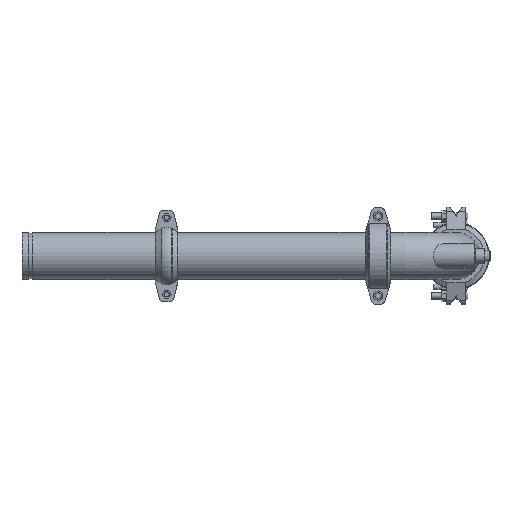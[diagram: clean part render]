
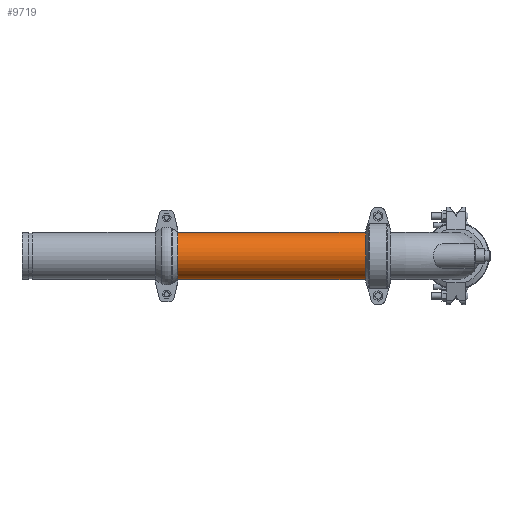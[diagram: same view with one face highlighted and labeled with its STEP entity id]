
A CAD part, left-side view. The second image highlights one B-rep face of the part: STEP entity #9719.
In plain terms, the highlighted cylindrical face has radius 57.15 mm (diameter 114.3 mm), a full revolution.
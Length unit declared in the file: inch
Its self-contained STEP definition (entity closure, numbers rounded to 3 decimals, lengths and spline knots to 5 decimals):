
#415=CYLINDRICAL_SURFACE('',#10844,2.25);
#1322=LINE('',#16673,#1996);
#1996=VECTOR('',#13225,2.25);
#2544=FACE_OUTER_BOUND('',#3114,.T.);
#3114=EDGE_LOOP('',(#8022,#8023,#8024,#8025,#8026,#8027));
#3652=CIRCLE('',#10842,2.25);
#3653=CIRCLE('',#10843,2.25);
#3654=CIRCLE('',#10845,2.25);
#3655=CIRCLE('',#10846,2.25);
#4448=VERTEX_POINT('',#16664);
#4449=VERTEX_POINT('',#16665);
#4450=VERTEX_POINT('',#16669);
#4451=VERTEX_POINT('',#16670);
#5687=EDGE_CURVE('',#4448,#4449,#3652,.T.);
#5688=EDGE_CURVE('',#4449,#4448,#3653,.T.);
#5689=EDGE_CURVE('',#4450,#4451,#3654,.T.);
#5690=EDGE_CURVE('',#4451,#4450,#3655,.T.);
#5691=EDGE_CURVE('',#4451,#4449,#1322,.T.);
#8022=ORIENTED_EDGE('',*,*,#5689,.F.);
#8023=ORIENTED_EDGE('',*,*,#5690,.F.);
#8024=ORIENTED_EDGE('',*,*,#5691,.T.);
#8025=ORIENTED_EDGE('',*,*,#5688,.T.);
#8026=ORIENTED_EDGE('',*,*,#5687,.T.);
#8027=ORIENTED_EDGE('',*,*,#5691,.F.);
#9719=ADVANCED_FACE('',(#2544),#415,.T.);
#10842=AXIS2_PLACEMENT_3D('',#16666,#13215,#13216);
#10843=AXIS2_PLACEMENT_3D('',#16667,#13217,#13218);
#10844=AXIS2_PLACEMENT_3D('',#16668,#13219,#13220);
#10845=AXIS2_PLACEMENT_3D('',#16671,#13221,#13222);
#10846=AXIS2_PLACEMENT_3D('',#16672,#13223,#13224);
#13215=DIRECTION('center_axis',(1.,0.,0.));
#13216=DIRECTION('ref_axis',(0.,0.,-1.));
#13217=DIRECTION('center_axis',(1.,0.,0.));
#13218=DIRECTION('ref_axis',(0.,0.,-1.));
#13219=DIRECTION('center_axis',(1.,0.,0.));
#13220=DIRECTION('ref_axis',(0.,1.,0.));
#13221=DIRECTION('center_axis',(1.,0.,0.));
#13222=DIRECTION('ref_axis',(0.,0.,-1.));
#13223=DIRECTION('center_axis',(1.,0.,0.));
#13224=DIRECTION('ref_axis',(0.,0.,-1.));
#13225=DIRECTION('',(-1.,0.,0.));
#16664=CARTESIAN_POINT('',(-9.016,2.25,0.));
#16665=CARTESIAN_POINT('',(-9.016,-2.25,0.));
#16666=CARTESIAN_POINT('Origin',(-9.016,0.,0.));
#16667=CARTESIAN_POINT('Origin',(-9.016,0.,0.));
#16668=CARTESIAN_POINT('Origin',(0.,0.,0.));
#16669=CARTESIAN_POINT('',(9.016,2.25,0.));
#16670=CARTESIAN_POINT('',(9.016,-2.25,0.));
#16671=CARTESIAN_POINT('Origin',(9.016,0.,0.));
#16672=CARTESIAN_POINT('Origin',(9.016,0.,0.));
#16673=CARTESIAN_POINT('',(0.,-2.25,0.));
